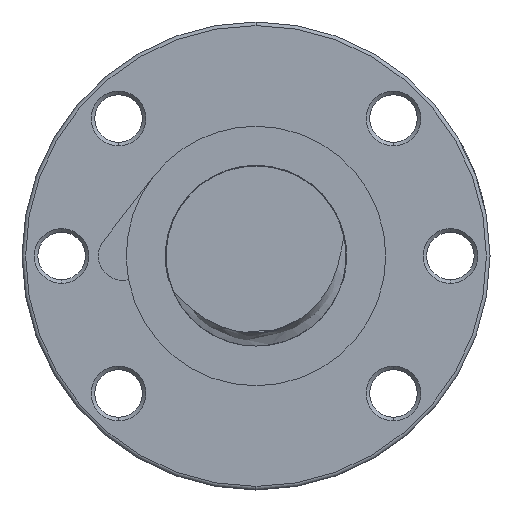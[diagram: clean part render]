
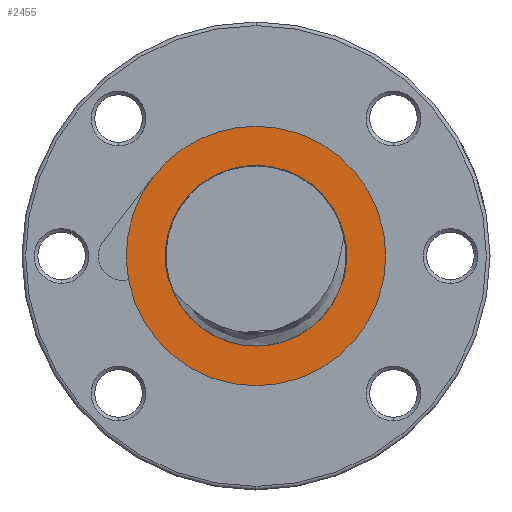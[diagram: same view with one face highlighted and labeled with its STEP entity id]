
A CAD part, left-side view. The second image highlights one B-rep face of the part: STEP entity #2455.
In plain terms, the highlighted planar face has unit normal (-1, 0, 0).
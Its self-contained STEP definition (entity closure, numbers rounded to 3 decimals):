
#40 = VERTEX_POINT ( 'NONE', #15579 ) ;
#45 = EDGE_CURVE ( 'NONE', #40, #19554, #15578, .T. ) ;
#273 = ORIENTED_EDGE ( 'NONE', *, *, #19727, .T. ) ;
#277 = ORIENTED_EDGE ( 'NONE', *, *, #25373, .T. ) ;
#282 = ORIENTED_EDGE ( 'NONE', *, *, #45, .T. ) ;
#776 = ORIENTED_EDGE ( 'NONE', *, *, #843, .T. ) ;
#843 = EDGE_CURVE ( 'NONE', #25359, #40, #7743, .T. ) ;
#1647 = EDGE_CURVE ( 'NONE', #15801, #15719, #7838, .T. ) ;
#1762 = ORIENTED_EDGE ( 'NONE', *, *, #15799, .F. ) ;
#1766 = EDGE_LOOP ( 'NONE', ( #776, #282, #273, #277 ) ) ;
#2078 = EDGE_LOOP ( 'NONE', ( #2175, #2272, #1762 ) ) ;
#2175 = ORIENTED_EDGE ( 'NONE', *, *, #15768, .F. ) ;
#2272 = ORIENTED_EDGE ( 'NONE', *, *, #1647, .F. ) ;
#2455 = ADVANCED_FACE ( 'NONE', ( #8051, #8049 ), #8048, .T. ) ;
#7742 = AXIS2_PLACEMENT_3D ( 'NONE', #7818, #7817, #7816 ) ;
#7743 = CIRCLE ( 'NONE', #7742, 18.019 ) ;
#7816 = DIRECTION ( 'NONE',  ( 0., 0., 1. ) ) ;
#7817 = DIRECTION ( 'NONE',  ( -1., 0., 0. ) ) ;
#7818 = CARTESIAN_POINT ( 'NONE',  ( -62.8, 0., 0. ) ) ;
#7819 = CARTESIAN_POINT ( 'NONE',  ( -62.8, 1.505, -10.575 ) ) ;
#7820 = CARTESIAN_POINT ( 'NONE',  ( -62.8, 1.851, -10.532 ) ) ;
#7821 = CARTESIAN_POINT ( 'NONE',  ( -62.8, 2.877, -10.36 ) ) ;
#7822 = CARTESIAN_POINT ( 'NONE',  ( -62.8, 3.545, -10.187 ) ) ;
#7823 = CARTESIAN_POINT ( 'NONE',  ( -62.8, 4.524, -9.844 ) ) ;
#7824 = CARTESIAN_POINT ( 'NONE',  ( -62.8, 4.846, -9.715 ) ) ;
#7825 = CARTESIAN_POINT ( 'NONE',  ( -62.8, 5.483, -9.43 ) ) ;
#7826 = CARTESIAN_POINT ( 'NONE',  ( -62.8, 5.799, -9.272 ) ) ;
#7827 = CARTESIAN_POINT ( 'NONE',  ( -62.8, 7.328, -8.429 ) ) ;
#7828 = CARTESIAN_POINT ( 'NONE',  ( -62.8, 8.412, -7.571 ) ) ;
#7829 = CARTESIAN_POINT ( 'NONE',  ( -62.8, 9.874, -6.067 ) ) ;
#7830 = CARTESIAN_POINT ( 'NONE',  ( -62.8, 10.328, -5.532 ) ) ;
#7831 = CARTESIAN_POINT ( 'NONE',  ( -62.8, 10.984, -4.713 ) ) ;
#7832 = CARTESIAN_POINT ( 'NONE',  ( -62.8, 11.199, -4.436 ) ) ;
#7833 = CARTESIAN_POINT ( 'NONE',  ( -62.8, 11.529, -4.028 ) ) ;
#7834 = CARTESIAN_POINT ( 'NONE',  ( -62.8, 11.64, -3.893 ) ) ;
#7835 = CARTESIAN_POINT ( 'NONE',  ( -62.8, 11.874, -3.633 ) ) ;
#7836 = CARTESIAN_POINT ( 'NONE',  ( -62.8, 11.994, -3.507 ) ) ;
#7837 = CARTESIAN_POINT ( 'NONE',  ( -62.8, 12.133, -3.399 ) ) ;
#7838 = B_SPLINE_CURVE_WITH_KNOTS ( 'NONE', 3,
 ( #7837, #7836, #7835, #7834, #7833, #7832, #7831, #7830, #7829, #7828, #7827, #7826, #7825, #7824, #7823, #7822, #7821, #7820, #7819, #7894, #7893, #7892, #7891, #7890, #7889, #7888, #7887, #7886, #7885, #7883, #7882, #7881, #7880, #7879, #7878, #7877, #7876, #7875, #7874, #7873, #7872, #7871, #7870, #7869, #7868, #7867 ),
 .UNSPECIFIED., .F., .F.,
 ( 4, 2, 2, 2, 2, 2, 2, 2, 2, 2, 2, 2, 2, 2, 2, 2, 2, 2, 2, 2, 2, 2, 4 ),
 ( 0.047, 0.048, 0.048, 0.049, 0.051, 0.055, 0.056, 0.058, 0.06, 0.061, 0.062, 0.064, 0.066, 0.068, 0.07, 0.072, 0.073, 0.074, 0.077, 0.079, 0.08, 0.08, 0.081 ),
 .UNSPECIFIED. ) ;
#7867 = CARTESIAN_POINT ( 'NONE',  ( -62.8, -12.532, 1.306 ) ) ;
#7868 = CARTESIAN_POINT ( 'NONE',  ( -62.8, -12.443, 1.156 ) ) ;
#7869 = CARTESIAN_POINT ( 'NONE',  ( -62.8, -12.377, 0.992 ) ) ;
#7870 = CARTESIAN_POINT ( 'NONE',  ( -62.8, -12.255, 0.663 ) ) ;
#7871 = CARTESIAN_POINT ( 'NONE',  ( -62.8, -12.201, 0.497 ) ) ;
#7872 = CARTESIAN_POINT ( 'NONE',  ( -62.8, -12.044, -0.005 ) ) ;
#7873 = CARTESIAN_POINT ( 'NONE',  ( -62.8, -11.947, -0.342 ) ) ;
#7874 = CARTESIAN_POINT ( 'NONE',  ( -62.8, -11.638, -1.347 ) ) ;
#7875 = CARTESIAN_POINT ( 'NONE',  ( -62.8, -11.411, -2.013 ) ) ;
#7876 = CARTESIAN_POINT ( 'NONE',  ( -62.8, -10.874, -3.302 ) ) ;
#7877 = CARTESIAN_POINT ( 'NONE',  ( -62.8, -10.567, -3.926 ) ) ;
#7878 = CARTESIAN_POINT ( 'NONE',  ( -62.8, -10.035, -4.825 ) ) ;
#7879 = CARTESIAN_POINT ( 'NONE',  ( -62.8, -9.846, -5.118 ) ) ;
#7880 = CARTESIAN_POINT ( 'NONE',  ( -62.8, -9.444, -5.692 ) ) ;
#7881 = CARTESIAN_POINT ( 'NONE',  ( -62.8, -9.23, -5.972 ) ) ;
#7882 = CARTESIAN_POINT ( 'NONE',  ( -62.8, -8.562, -6.778 ) ) ;
#7883 = CARTESIAN_POINT ( 'NONE',  ( -62.8, -8.077, -7.275 ) ) ;
#7885 = CARTESIAN_POINT ( 'NONE',  ( -62.8, -7.024, -8.184 ) ) ;
#7886 = CARTESIAN_POINT ( 'NONE',  ( -62.8, -6.45, -8.6 ) ) ;
#7887 = CARTESIAN_POINT ( 'NONE',  ( -62.8, -5.254, -9.316 ) ) ;
#7888 = CARTESIAN_POINT ( 'NONE',  ( -62.8, -4.63, -9.619 ) ) ;
#7889 = CARTESIAN_POINT ( 'NONE',  ( -62.8, -3.329, -10.115 ) ) ;
#7890 = CARTESIAN_POINT ( 'NONE',  ( -62.8, -2.647, -10.307 ) ) ;
#7891 = CARTESIAN_POINT ( 'NONE',  ( -62.8, -1.28, -10.565 ) ) ;
#7892 = CARTESIAN_POINT ( 'NONE',  ( -62.8, -0.59, -10.632 ) ) ;
#7893 = CARTESIAN_POINT ( 'NONE',  ( -62.8, 0.454, -10.642 ) ) ;
#7894 = CARTESIAN_POINT ( 'NONE',  ( -62.8, 0.805, -10.63 ) ) ;
#8048 = PLANE ( 'NONE',  #8076 ) ;
#8049 = FACE_OUTER_BOUND ( 'NONE', #1766, .T. ) ;
#8051 = FACE_BOUND ( 'NONE', #2078, .T. ) ;
#8073 = DIRECTION ( 'NONE',  ( 0., 0., 1. ) ) ;
#8074 = DIRECTION ( 'NONE',  ( -1., 0., 0. ) ) ;
#8075 = CARTESIAN_POINT ( 'NONE',  ( -62.8, 0., 12.6 ) ) ;
#8076 = AXIS2_PLACEMENT_3D ( 'NONE', #8075, #8074, #8073 ) ;
#12516 = CARTESIAN_POINT ( 'NONE',  ( -62.8, 0., 12.6 ) ) ;
#13028 = AXIS2_PLACEMENT_3D ( 'NONE', #14010, #14009, #14008 ) ;
#13029 = CIRCLE ( 'NONE', #13028, 12.6 ) ;
#13902 = CARTESIAN_POINT ( 'NONE',  ( -62.8, -12.532, 1.306 ) ) ;
#13992 = DIRECTION ( 'NONE',  ( 0., 0., 1. ) ) ;
#13993 = DIRECTION ( 'NONE',  ( -1., 0., 0. ) ) ;
#13994 = CARTESIAN_POINT ( 'NONE',  ( -62.8, 0., 0. ) ) ;
#13995 = AXIS2_PLACEMENT_3D ( 'NONE', #13994, #13993, #13992 ) ;
#13996 = CIRCLE ( 'NONE', #13995, 12.6 ) ;
#13997 = CARTESIAN_POINT ( 'NONE',  ( -62.8, 12.133, -3.399 ) ) ;
#14008 = DIRECTION ( 'NONE',  ( 0., 0., 1. ) ) ;
#14009 = DIRECTION ( 'NONE',  ( -1., 0., 0. ) ) ;
#14010 = CARTESIAN_POINT ( 'NONE',  ( -62.8, 0., 0. ) ) ;
#14190 = DIRECTION ( 'NONE',  ( 0., 0., 1. ) ) ;
#14191 = DIRECTION ( 'NONE',  ( -1., 0., 0. ) ) ;
#14192 = CARTESIAN_POINT ( 'NONE',  ( -62.8, 0., 0. ) ) ;
#14193 = AXIS2_PLACEMENT_3D ( 'NONE', #14192, #14191, #14190 ) ;
#14194 = CIRCLE ( 'NONE', #14193, 18.019 ) ;
#14195 = CARTESIAN_POINT ( 'NONE',  ( -62.8, 0., 18.019 ) ) ;
#14196 = CARTESIAN_POINT ( 'NONE',  ( -62.8, 0., -18.019 ) ) ;
#14872 = CARTESIAN_POINT ( 'NONE',  ( -62.8, 14.243, 11.038 ) ) ;
#14917 = DIRECTION ( 'NONE',  ( 0., 0., 1. ) ) ;
#14918 = DIRECTION ( 'NONE',  ( -1., 0., 0. ) ) ;
#14919 = CARTESIAN_POINT ( 'NONE',  ( -62.8, 0., 0. ) ) ;
#14920 = AXIS2_PLACEMENT_3D ( 'NONE', #14919, #14918, #14917 ) ;
#14921 = CIRCLE ( 'NONE', #14920, 18.019 ) ;
#15360 = VERTEX_POINT ( 'NONE', #12516 ) ;
#15574 = DIRECTION ( 'NONE',  ( 0., 0., 1. ) ) ;
#15575 = DIRECTION ( 'NONE',  ( -1., 0., 0. ) ) ;
#15576 = CARTESIAN_POINT ( 'NONE',  ( -62.8, 0., 0. ) ) ;
#15577 = AXIS2_PLACEMENT_3D ( 'NONE', #15576, #15575, #15574 ) ;
#15578 = CIRCLE ( 'NONE', #15577, 18.019 ) ;
#15579 = CARTESIAN_POINT ( 'NONE',  ( -62.8, 17.717, -3.285 ) ) ;
#15719 = VERTEX_POINT ( 'NONE', #13902 ) ;
#15768 = EDGE_CURVE ( 'NONE', #15719, #15360, #13029, .T. ) ;
#15799 = EDGE_CURVE ( 'NONE', #15360, #15801, #13996, .T. ) ;
#15801 = VERTEX_POINT ( 'NONE', #13997 ) ;
#19554 = VERTEX_POINT ( 'NONE', #14196 ) ;
#19652 = VERTEX_POINT ( 'NONE', #14195 ) ;
#19727 = EDGE_CURVE ( 'NONE', #19554, #19652, #14194, .T. ) ;
#25359 = VERTEX_POINT ( 'NONE', #14872 ) ;
#25373 = EDGE_CURVE ( 'NONE', #19652, #25359, #14921, .T. ) ;
